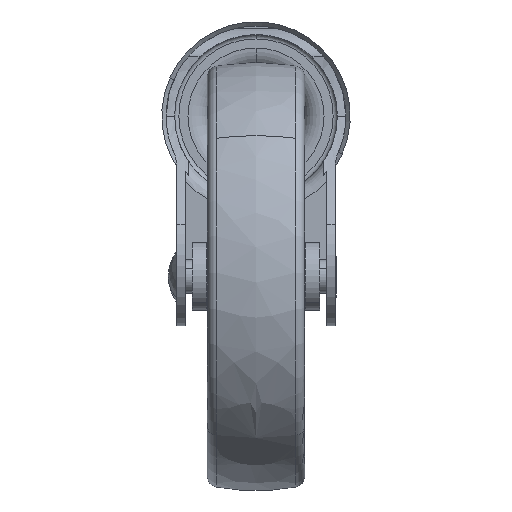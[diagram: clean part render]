
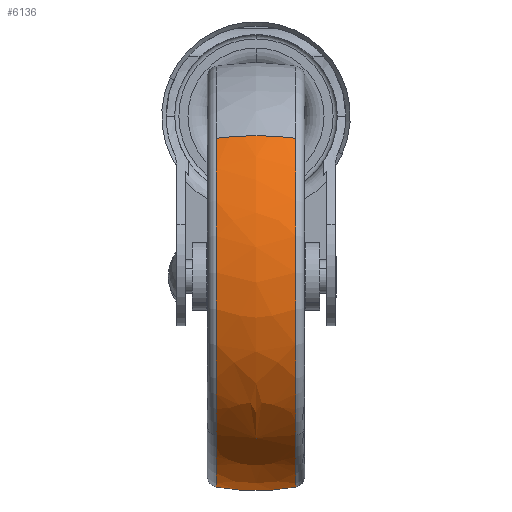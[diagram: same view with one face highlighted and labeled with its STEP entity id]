
A CAD part, front view. The second image highlights one B-rep face of the part: STEP entity #6136.
In plain terms, the highlighted spherical face has radius 50 mm.
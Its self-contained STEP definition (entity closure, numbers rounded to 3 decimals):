
#395 = CARTESIAN_POINT ( 'NONE',  ( -60.802, -121.504, -6.822 ) ) ;
#1249 = VERTEX_POINT ( 'NONE', #395 ) ;
#1562 = CARTESIAN_POINT ( 'NONE',  ( -70.118, -89.195, 30.182 ) ) ;
#1563 = DIRECTION ( 'NONE',  ( 0., 0.658, 0.753 ) ) ;
#1564 = DIRECTION ( 'NONE',  ( 0., -0.753, 0.658 ) ) ;
#1574 = CARTESIAN_POINT ( 'NONE',  ( -70.118, -89.195, 30.182 ) ) ;
#1575 = DIRECTION ( 'NONE',  ( 0., -0.658, -0.753 ) ) ;
#1576 = DIRECTION ( 'NONE',  ( 0., 0.753, -0.658 ) ) ;
#1588 = CARTESIAN_POINT ( 'NONE',  ( -60.802, -89.195, 30.182 ) ) ;
#1589 = DIRECTION ( 'NONE',  ( -1., 0., 0. ) ) ;
#1590 = DIRECTION ( 'NONE',  ( 0., -0.658, -0.753 ) ) ;
#1658 = CARTESIAN_POINT ( 'NONE',  ( -79.433, -89.195, 30.182 ) ) ;
#1659 = DIRECTION ( 'NONE',  ( -1., 0., 0. ) ) ;
#1660 = DIRECTION ( 'NONE',  ( 0., -0.658, -0.753 ) ) ;
#1670 = CARTESIAN_POINT ( 'NONE',  ( -79.433, -89.195, 30.182 ) ) ;
#1671 = DIRECTION ( 'NONE',  ( -1., 0., 0. ) ) ;
#1672 = DIRECTION ( 'NONE',  ( 0., -0.658, -0.753 ) ) ;
#1707 = CARTESIAN_POINT ( 'NONE',  ( -60.802, -89.195, 30.182 ) ) ;
#1708 = DIRECTION ( 'NONE',  ( -1., 0., 0. ) ) ;
#1709 = DIRECTION ( 'NONE',  ( 0., -0.658, -0.753 ) ) ;
#1733 = CARTESIAN_POINT ( 'NONE',  ( -70.118, -89.195, 30.182 ) ) ;
#1741 = FACE_OUTER_BOUND ( 'NONE', #5898, .T. ) ;
#1742 = SPHERICAL_SURFACE ( 'NONE', #7019, 50. ) ;
#1744 = DIRECTION ( 'NONE',  ( 0., 0.658, 0.753 ) ) ;
#1745 = DIRECTION ( 'NONE',  ( 0., -0.753, 0.658 ) ) ;
#2588 = CIRCLE ( 'NONE', #2601, 50. ) ;
#2601 = AXIS2_PLACEMENT_3D ( 'NONE', #1562, #1563, #1564 ) ;
#2642 = AXIS2_PLACEMENT_3D ( 'NONE', #1574, #1575, #1576 ) ;
#2643 = CIRCLE ( 'NONE', #2642, 50. ) ;
#2775 = VERTEX_POINT ( 'NONE', #6193 ) ;
#2842 = VERTEX_POINT ( 'NONE', #6260 ) ;
#3618 = CARTESIAN_POINT ( 'NONE',  ( -60.802, -52.19, -2.127 ) ) ;
#3665 = CARTESIAN_POINT ( 'NONE',  ( -60.802, -126.199, 62.492 ) ) ;
#3731 = CARTESIAN_POINT ( 'NONE',  ( -79.433, -52.19, -2.127 ) ) ;
#3779 = VERTEX_POINT ( 'NONE', #3618 ) ;
#3826 = VERTEX_POINT ( 'NONE', #3665 ) ;
#3892 = VERTEX_POINT ( 'NONE', #3731 ) ;
#5091 = ORIENTED_EDGE ( 'NONE', *, *, #6082, .F. ) ;
#5092 = ORIENTED_EDGE ( 'NONE', *, *, #6129, .T. ) ;
#5093 = ORIENTED_EDGE ( 'NONE', *, *, #6090, .T. ) ;
#5095 = ORIENTED_EDGE ( 'NONE', *, *, #6086, .T. ) ;
#5096 = ORIENTED_EDGE ( 'NONE', *, *, #6114, .F. ) ;
#5097 = ORIENTED_EDGE ( 'NONE', *, *, #6118, .F. ) ;
#5898 = EDGE_LOOP ( 'NONE', ( #5091, #5092, #5093, #5095, #5096, #5097 ) ) ;
#6082 = EDGE_CURVE ( 'NONE', #3779, #3892, #2588, .T. ) ;
#6086 = EDGE_CURVE ( 'NONE', #3826, #2842, #2643, .T. ) ;
#6090 = EDGE_CURVE ( 'NONE', #1249, #3826, #6907, .T. ) ;
#6114 = EDGE_CURVE ( 'NONE', #2775, #2842, #7031, .T. ) ;
#6118 = EDGE_CURVE ( 'NONE', #3892, #2775, #6998, .T. ) ;
#6129 = EDGE_CURVE ( 'NONE', #3779, #1249, #6967, .T. ) ;
#6136 = ADVANCED_FACE ( 'NONE', ( #1741 ), #1742, .T. ) ;
#6193 = CARTESIAN_POINT ( 'NONE',  ( -79.433, -121.504, -6.822 ) ) ;
#6260 = CARTESIAN_POINT ( 'NONE',  ( -79.433, -126.199, 62.492 ) ) ;
#6907 = CIRCLE ( 'NONE', #6951, 49.124 ) ;
#6924 = AXIS2_PLACEMENT_3D ( 'NONE', #1658, #1659, #1660 ) ;
#6951 = AXIS2_PLACEMENT_3D ( 'NONE', #1588, #1589, #1590 ) ;
#6954 = AXIS2_PLACEMENT_3D ( 'NONE', #1707, #1708, #1709 ) ;
#6967 = CIRCLE ( 'NONE', #6954, 49.124 ) ;
#6984 = AXIS2_PLACEMENT_3D ( 'NONE', #1670, #1671, #1672 ) ;
#6998 = CIRCLE ( 'NONE', #6984, 49.124 ) ;
#7019 = AXIS2_PLACEMENT_3D ( 'NONE', #1733, #1744, #1745 ) ;
#7031 = CIRCLE ( 'NONE', #6924, 49.124 ) ;
